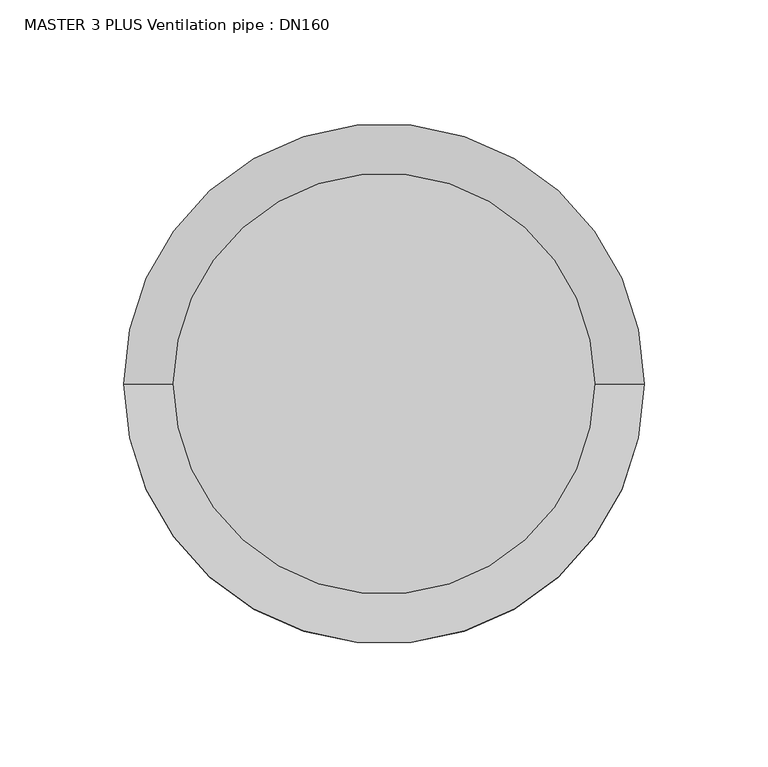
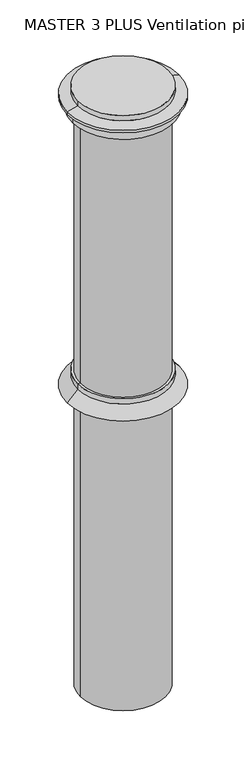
"""IFC4 building model written with IfcOpenShell, lengths in millimetres: valve geometry, MASTER 3 PLUS Ventilation pipe : DN160."""

from ifc_helpers import new_model, si_unit, frame, origin, origin_with_axes, place, context, project, spatial, polyline, circle_curve, source, transform, mapped, element, save
from ifc_brep_helpers import plane_surface, cylinder_surface, revolved_surface, advanced_brep


def master_3_plus_ventilation_pipe_dn160_4e9bdbd1(model_context):
    return source(origin(), model_context, "Body", "AdvancedBrep", [
        advanced_brep(
        [(85.0, 0.0, 1183.0), (-85.0, 0.0, 1183.0), (-80.0, 0.0, 0.0), (80.0, 0.0, 0.0), (80.0, 0.0, 1142.8236191), (-80.0, 0.0, 1142.8236191), (85.0, 0.0, 1173.0), (-85.0, 0.0, 1173.0), (105.0, 0.0, 1167.8236191), (-105.0, 0.0, 1167.8236191), (105.0, 0.0, 1162.8236191), (-105.0, 0.0, 1162.8236191), (95.0, 0.0, 1162.8236191), (-95.0, 0.0, 1162.8236191), (95.0, 0.0, 1142.8236191), (-95.0, 0.0, 1142.8236191)],
        [
            (0, 1, circle_curve(frame((0.0, 0.0, 1183.0), z_axis=(0.0, 0.0, 1.0), x_axis=(-1.0, 0.0, 0.0)), 85.0)),
            (1, 0, circle_curve(frame((0.0, 0.0, 1183.0), z_axis=(0.0, 0.0, 1.0), x_axis=(-1.0, 0.0, 0.0)), 85.0)),
            (2, 3, circle_curve(frame((0.0, 0.0, 0.0), z_axis=(0.0, 0.0, -1.0), x_axis=(1.0, 0.0, 0.0)), 80.0)),
            (3, 2, circle_curve(frame((0.0, 0.0, 0.0), z_axis=(0.0, 0.0, -1.0), x_axis=(1.0, 0.0, 0.0)), 80.0)),
            (3, 4),
            (4, 5, circle_curve(frame((0.0, 0.0, 1142.8236191), z_axis=(0.0, 0.0, -1.0), x_axis=(1.0, 0.0, 0.0)), 80.0)),
            (5, 2),
            (5, 4, circle_curve(frame((0.0, 0.0, 1142.8236191), z_axis=(0.0, 0.0, -1.0), x_axis=(1.0, 0.0, 0.0)), 80.0)),
            (6, 7, circle_curve(frame((0.0, 0.0, 1173.0), z_axis=(0.0, 0.0, 1.0), x_axis=(-1.0, 0.0, 0.0)), 85.0)),
            (7, 1),
            (0, 6),
            (7, 6, circle_curve(frame((0.0, 0.0, 1173.0), z_axis=(0.0, 0.0, 1.0), x_axis=(-1.0, 0.0, 0.0)), 85.0)),
            (6, 8),
            (8, 9, circle_curve(frame((0.0, 0.0, 1167.8236191), z_axis=(0.0, 0.0, 1.0), x_axis=(-1.0, 0.0, 0.0)), 105.0)),
            (9, 7),
            (9, 8, circle_curve(frame((0.0, 0.0, 1167.8236191), z_axis=(0.0, 0.0, 1.0), x_axis=(-1.0, 0.0, 0.0)), 105.0)),
            (8, 10),
            (10, 11, circle_curve(frame((0.0, 0.0, 1162.8236191), z_axis=(0.0, 0.0, 1.0), x_axis=(-1.0, 0.0, 0.0)), 105.0)),
            (11, 9),
            (11, 10, circle_curve(frame((0.0, 0.0, 1162.8236191), z_axis=(0.0, 0.0, 1.0), x_axis=(-1.0, 0.0, 0.0)), 105.0)),
            (10, 12),
            (12, 13, circle_curve(frame((0.0, 0.0, 1162.8236191), z_axis=(0.0, 0.0, 1.0), x_axis=(-1.0, 0.0, 0.0)), 95.0)),
            (13, 11),
            (13, 12, circle_curve(frame((0.0, 0.0, 1162.8236191), z_axis=(0.0, 0.0, 1.0), x_axis=(-1.0, 0.0, 0.0)), 95.0)),
            (12, 14),
            (14, 15, circle_curve(frame((0.0, 0.0, 1142.8236191), z_axis=(0.0, 0.0, 1.0), x_axis=(-1.0, 0.0, 0.0)), 95.0)),
            (15, 13),
            (15, 14, circle_curve(frame((0.0, 0.0, 1142.8236191), z_axis=(0.0, 0.0, 1.0), x_axis=(-1.0, 0.0, 0.0)), 95.0)),
            (14, 4),
            (5, 15),
        ],
        [
            plane_surface(frame((80.0, 0.0, 1183.0), z_axis=(0.0, 0.0, 1.0), x_axis=(0.0, 1.0, 0.0))),
            plane_surface(frame((80.0, 0.0, 0.0), z_axis=(0.0, 0.0, -1.0), x_axis=(0.0, -1.0, 0.0))),
            cylinder_surface(origin_with_axes(), 80.0),
            cylinder_surface(frame((0.0, 0.0, 1183.0), z_axis=(0.0, 0.0, -1.0), x_axis=(-1.0, 0.0, 0.0)), 85.0),
            revolved_surface(polyline([(-85.0, 0.0, 1173.0), (-105.0, 0.0, 1167.8236191)]), (0.0, 0.0, 1183.0), (0.0, 0.0, -1.0)),
            cylinder_surface(frame((0.0, 0.0, 1183.0), z_axis=(0.0, 0.0, -1.0), x_axis=(-1.0, 0.0, 0.0)), 105.0),
            plane_surface(frame((0.0, 0.0, 1162.8236191), z_axis=(0.0, 0.0, -1.0), x_axis=(-1.0, 0.0, 0.0))),
            cylinder_surface(frame((0.0, 0.0, 1183.0), z_axis=(0.0, 0.0, -1.0), x_axis=(-1.0, 0.0, 0.0)), 95.0),
            plane_surface(frame((0.0, 0.0, 1142.8236191), z_axis=(0.0, 0.0, -1.0), x_axis=(-1.0, 0.0, 0.0))),
        ],
        [
            (0, [[1, 2]]),
            (1, [[3, 4]]),
            (2, [[-4, 5, 6, 7]]),
            (2, [[-3, -7, 8, -5]]),
            (3, [[9, 10, -1, 11]]),
            (3, [[-10, 12, -11, -2]]),
            (4, [[-9, 13, 14, 15]]),
            (4, [[-12, -15, 16, -13]]),
            (5, [[-14, 17, 18, 19]]),
            (5, [[-16, -19, 20, -17]]),
            (6, [[-18, 21, 22, 23]]),
            (6, [[-20, -23, 24, -21]]),
            (7, [[-22, 25, 26, 27]]),
            (7, [[-24, -27, 28, -25]]),
            (8, [[-26, 29, -8, 30]]),
            (8, [[-28, -30, -6, -29]]),
        ],
    ),
        advanced_brep(
        [(85.0, 0.0, 611.5), (-85.0, 0.0, 611.5), (-85.0, 0.0, 621.5), (85.0, 0.0, 621.5), (105.0, 0.0, 591.5), (-105.0, 0.0, 591.5), (0.0, 0.0, 591.5), (0.0, 0.0, 621.5)],
        [
            (0, 1, circle_curve(frame((0.0, 0.0, 611.5), z_axis=(0.0, 0.0, 1.0), x_axis=(-1.0, 0.0, 0.0)), 85.0)),
            (1, 2),
            (2, 3, circle_curve(frame((0.0, 0.0, 621.5), z_axis=(0.0, 0.0, -1.0), x_axis=(-1.0, 0.0, 0.0)), 85.0)),
            (3, 0),
            (1, 0, circle_curve(frame((0.0, 0.0, 611.5), z_axis=(0.0, 0.0, 1.0), x_axis=(-1.0, 0.0, 0.0)), 85.0)),
            (3, 2, circle_curve(frame((0.0, 0.0, 621.5), z_axis=(0.0, 0.0, -1.0), x_axis=(-1.0, 0.0, 0.0)), 85.0)),
            (4, 5, circle_curve(frame((0.0, 0.0, 591.5), z_axis=(0.0, 0.0, 1.0), x_axis=(-1.0, 0.0, 0.0)), 105.0)),
            (5, 1),
            (0, 4),
            (5, 4, circle_curve(frame((0.0, 0.0, 591.5), z_axis=(0.0, 0.0, 1.0), x_axis=(-1.0, 0.0, 0.0)), 105.0)),
            (6, 5),
            (4, 6),
            (2, 7),
            (7, 3),
        ],
        [
            cylinder_surface(frame((0.0, 0.0, 621.5), z_axis=(0.0, 0.0, -1.0), x_axis=(-1.0, 0.0, 0.0)), 85.0),
            revolved_surface(polyline([(-85.0, 0.0, 611.5), (-105.0, 0.0, 591.5)]), (0.0, 0.0, 621.5), (0.0, 0.0, -1.0)),
            plane_surface(frame((0.0, 0.0, 591.5), z_axis=(0.0, 0.0, -1.0), x_axis=(-1.0, 0.0, 0.0))),
            plane_surface(frame((0.0, 0.0, 621.5), z_axis=(0.0, 0.0, 1.0), x_axis=(-1.0, 0.0, 0.0))),
        ],
        [
            (0, [[1, 2, 3, 4]]),
            (0, [[5, -4, 6, -2]]),
            (1, [[7, 8, -1, 9]]),
            (1, [[10, -9, -5, -8]]),
            (2, [[11, -7, 12]]),
            (2, [[-12, -10, -11]]),
            (3, [[-3, 13, 14]]),
            (3, [[-6, -14, -13]]),
        ],
    ),
    ])


if __name__ == "__main__":
    model = new_model("IFC4")
    model_context = context("Model", 3, world=origin())
    ifc_project = project(units=[si_unit("LENGTHUNIT", "METRE", prefix="MILLI")], contexts=[model_context])
    site = spatial("IfcSite", under=ifc_project)
    building = spatial("IfcBuilding", under=site)
    placement = place(None, origin())
    master_3_plus_ventilation_pipe_dn160_shape = master_3_plus_ventilation_pipe_dn160_4e9bdbd1(model_context)
    element("IfcValve", 1, ObjectType="MASTER 3 PLUS Ventilation pipe : DN160", at=placement, inside=building, context=model_context, shape_type="MappedRepresentation", body=[
        mapped(master_3_plus_ventilation_pipe_dn160_shape, transform((0.0, 0.0, 0.0), x_axis=(1.0, 0.0, 0.0), y_axis=(0.0, 1.0, 0.0), z_axis=(0.0, 0.0, 1.0))),
    ])
    save(model, "model.ifc")
